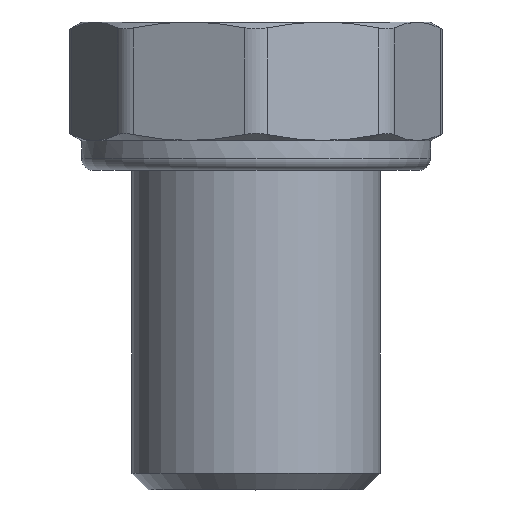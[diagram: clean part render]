
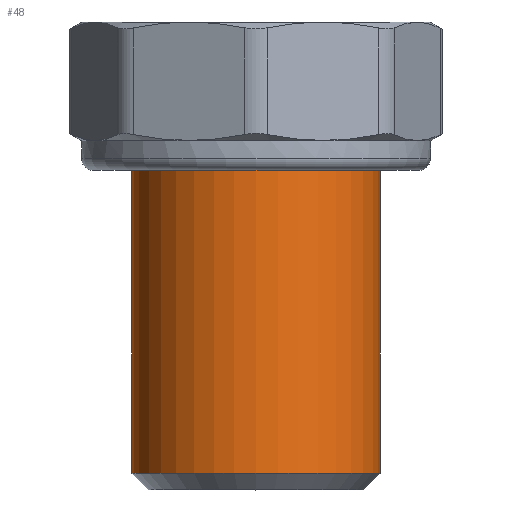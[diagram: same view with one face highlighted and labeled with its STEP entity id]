
A CAD part, top view. The second image highlights one B-rep face of the part: STEP entity #48.
In plain terms, the highlighted cylindrical face has radius 10.477 mm (diameter 20.955 mm), a full revolution.
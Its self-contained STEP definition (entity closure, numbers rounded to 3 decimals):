
#48=ADVANCED_FACE('',(#239),#241,.T.);
#239=FACE_BOUND('',#240,.T.);
#240=EDGE_LOOP('',(#1298,#1299,#1300,#1301));
#241=CYLINDRICAL_SURFACE('',#242,10.478);
#242=AXIS2_PLACEMENT_3D('',#243,#244,#245);
#243=CARTESIAN_POINT('',(0.,0.,0.));
#244=DIRECTION('',(0.,-1.,0.));
#245=DIRECTION('',(-1.,0.,0.));
#1298=ORIENTED_EDGE('',*,*,#2357,.F.);
#1299=ORIENTED_EDGE('',*,*,#2358,.F.);
#1300=ORIENTED_EDGE('',*,*,#2354,.F.);
#1301=ORIENTED_EDGE('',*,*,#2358,.T.);
#2354=EDGE_CURVE('',#2780,#2780,#2781,.F.);
#2357=EDGE_CURVE('',#2787,#2788,#2789,.T.);
#2358=EDGE_CURVE('',#2780,#2788,#2790,.T.);
#2780=VERTEX_POINT('',#3492);
#2781=CIRCLE('',#3493,10.478);
#2787=VERTEX_POINT('',#3508);
#2788=VERTEX_POINT('',#3509);
#2789=CIRCLE('',#3510,10.478);
#2790=LINE('',#3514,#3515);
#3492=CARTESIAN_POINT('',(-10.478,-2.5,0.));
#3493=AXIS2_PLACEMENT_3D('',#3494,#3495,#3496);
#3494=CARTESIAN_POINT('',(0.,-2.5,0.));
#3495=DIRECTION('',(0.,-1.,0.));
#3496=DIRECTION('',(-1.,0.,0.));
#3508=CARTESIAN_POINT('',(-10.478,-30.1,0.));
#3509=CARTESIAN_POINT('',(-10.478,-30.1,0.));
#3510=AXIS2_PLACEMENT_3D('',#3511,#3512,#3513);
#3511=CARTESIAN_POINT('',(0.,-30.1,0.));
#3512=DIRECTION('',(0.,-1.,0.));
#3513=DIRECTION('',(-1.,0.,0.));
#3514=CARTESIAN_POINT('',(-10.478,-2.5,0.));
#3515=VECTOR('',#3516,1.);
#3516=DIRECTION('',(0.,-1.,0.));
